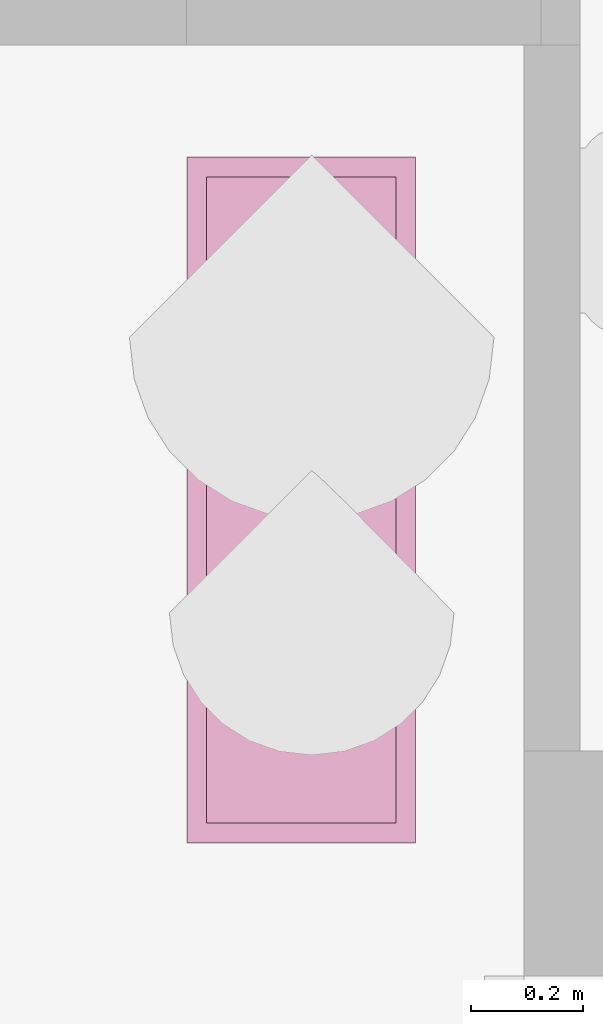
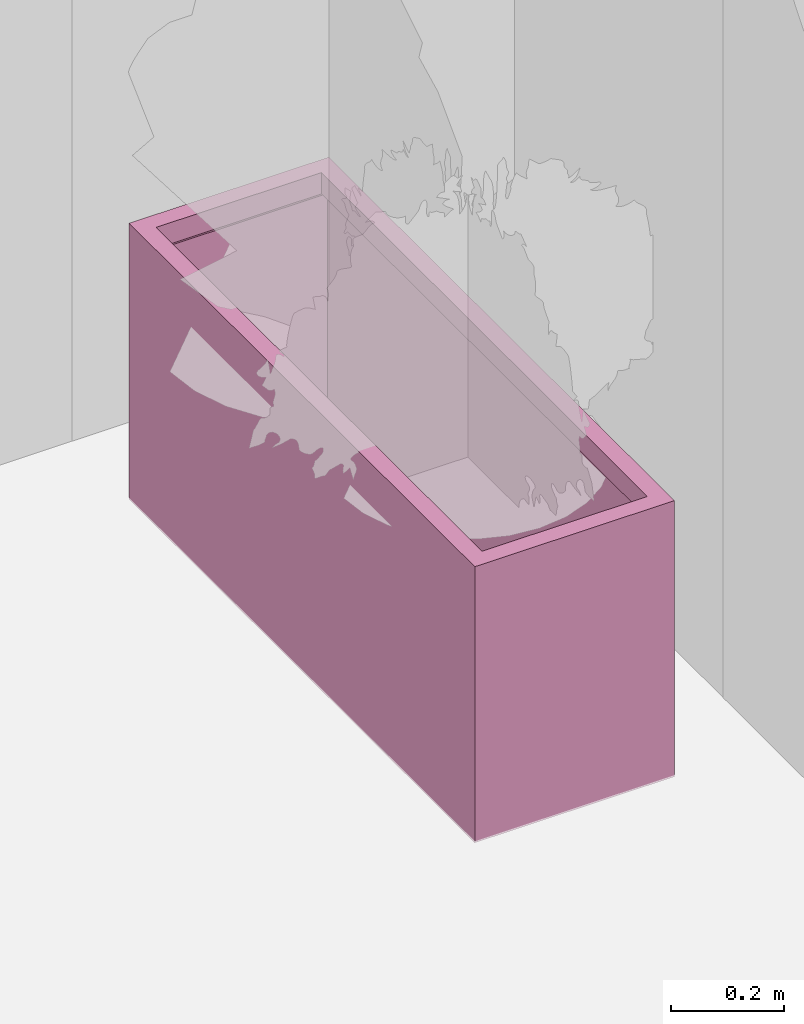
# One storey, part 30 of 32: 1 furnishing.
"""IFC2X3 building model written with IfcOpenShell, lengths in metres."""

from ifc_helpers import new_model, entity, si_unit, converted_unit, derived_unit, direction, frame, origin, origin_2d_with_axis, place, context, subcontext, project, spatial, polyline, rectangle, outline, extrude, faceted_brep, source, transform, mapped, material, type_object, type_shapes, element, save


model = new_model("IFC2X3")

# Units and contexts
model_context = context("Model", 3, precision=1e-05, world=origin(), true_north=direction((6.12303176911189e-17, 1.0)))
plan_context = context("Plan", 3, precision=1e-05, world=origin(), true_north=direction((6.12303176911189e-17, 1.0)))
body_context = subcontext(model_context, "Body", "Model", "MODEL_VIEW")
ifc_project = project(units=[si_unit("LENGTHUNIT", "METRE"), si_unit("AREAUNIT", "SQUARE_METRE"), si_unit("VOLUMEUNIT", "CUBIC_METRE"), converted_unit("PLANEANGLEUNIT", "DEGREE", entity("IfcRatioMeasure", 0.0174532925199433), si_unit("PLANEANGLEUNIT", "RADIAN"), dimensions=[0, 0, 0, 0, 0, 0, 0]), si_unit("MASSUNIT", "GRAM", prefix="KILO"), derived_unit("MASSDENSITYUNIT", [(si_unit("MASSUNIT", "GRAM", prefix="KILO"), 1), (si_unit("LENGTHUNIT", "METRE"), -3)]), derived_unit("MOMENTOFINERTIAUNIT", [(si_unit("LENGTHUNIT", "METRE"), 4)]), si_unit("TIMEUNIT", "SECOND"), si_unit("FREQUENCYUNIT", "HERTZ"), si_unit("THERMODYNAMICTEMPERATUREUNIT", "DEGREE_CELSIUS"), derived_unit("THERMALTRANSMITTANCEUNIT", [(si_unit("MASSUNIT", "GRAM", prefix="KILO"), 1), (si_unit("THERMODYNAMICTEMPERATUREUNIT", "KELVIN"), -1), (si_unit("TIMEUNIT", "SECOND"), -3)]), derived_unit("VOLUMETRICFLOWRATEUNIT", [(si_unit("LENGTHUNIT", "METRE"), 3), (si_unit("TIMEUNIT", "SECOND"), -1)]), si_unit("ELECTRICCURRENTUNIT", "AMPERE"), si_unit("ELECTRICVOLTAGEUNIT", "VOLT"), si_unit("POWERUNIT", "WATT"), si_unit("FORCEUNIT", "NEWTON", prefix="KILO"), si_unit("ILLUMINANCEUNIT", "LUX"), si_unit("LUMINOUSFLUXUNIT", "LUMEN"), si_unit("LUMINOUSINTENSITYUNIT", "CANDELA"), derived_unit("USERDEFINED", [(si_unit("MASSUNIT", "GRAM", prefix="KILO"), -1), (si_unit("LENGTHUNIT", "METRE"), -2), (si_unit("TIMEUNIT", "SECOND"), 3), (si_unit("LUMINOUSFLUXUNIT", "LUMEN"), 1)]), derived_unit("LINEARVELOCITYUNIT", [(si_unit("LENGTHUNIT", "METRE"), 1), (si_unit("TIMEUNIT", "SECOND"), -1)]), si_unit("PRESSUREUNIT", "PASCAL"), derived_unit("USERDEFINED", [(si_unit("LENGTHUNIT", "METRE"), -2), (si_unit("MASSUNIT", "GRAM", prefix="KILO"), 1), (si_unit("TIMEUNIT", "SECOND"), -2)]), derived_unit("LINEARFORCEUNIT", [(si_unit("MASSUNIT", "GRAM", prefix="KILO"), 1), (si_unit("LENGTHUNIT", "METRE"), 1), (si_unit("TIMEUNIT", "SECOND"), -2), (si_unit("LENGTHUNIT", "METRE"), -1)]), derived_unit("PLANARFORCEUNIT", [(si_unit("MASSUNIT", "GRAM", prefix="KILO"), 1), (si_unit("LENGTHUNIT", "METRE"), 1), (si_unit("TIMEUNIT", "SECOND"), -2), (si_unit("LENGTHUNIT", "METRE"), -2)])], contexts=[model_context, plan_context])

# Site, building, storey, space
site_placement = place(None, origin())
site = spatial("IfcSite", under=ifc_project, at=site_placement, Name="Default", CompositionType="ELEMENT")
building_placement = place(site_placement, origin())
building = spatial("IfcBuilding", under=site, at=building_placement, CompositionType="ELEMENT")
storey_placement = place(building_placement, origin())
storey = spatial("IfcBuildingStorey", under=building, at=storey_placement, Name="0 Mairie RDC 0.00", CompositionType="ELEMENT", Elevation=-1.94916083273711e-14)
space_placement = place(storey_placement, origin())
space = spatial("IfcSpace", under=storey, at=space_placement, Name="16", CompositionType="ELEMENT", InteriorOrExteriorSpace="INTERNAL")

# Furnishing
ifc_material = material(Name="Fiberglass - Pots Planters & More - Bright White")
furniture_type = type_object("IfcFurnitureType", Name="Mobilier : Furniture-Pots_Planters_and_More-Tolga_Modern_Planter_Boxes : 48\" L x 16\" W x 24\" H", material=ifc_material)
shared_shape = source(origin(), body_context, "Body", "SolidModel", [
    extrude(outline(polyline([(-0.036322, -0.0976206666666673), (0.042164, -0.0976206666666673), (0.042164, 0.147235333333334), (-0.00584199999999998, 0.147235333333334), (-0.00584199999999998, -0.049614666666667), (-0.036322, -0.049614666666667), (-0.036322, -0.0976206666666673)])), frame((-0.490389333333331, -0.139446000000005, 0.0), z_axis=(0.0, 0.0, 1.0), x_axis=(0.0, -1.0, 0.0)), (0.0, 0.0, 1.0), 0.01524),
    extrude(outline(polyline([(-0.0976206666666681, -0.036322), (-0.0496146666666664, -0.036322), (-0.0496146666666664, -0.005842), (0.147235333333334, -0.005842), (0.147235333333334, 0.042164), (-0.0976206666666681, 0.042164), (-0.0976206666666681, -0.036322)])), frame((0.49038933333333, -0.139446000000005, 0.0), z_axis=(0.0, 0.0, 1.0), x_axis=(-1.0, 0.0, 0.0)), (0.0, 0.0, 1.0), 0.01524),
    extrude(outline(polyline([(-0.0976206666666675, -0.036322), (-0.0496146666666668, -0.036322), (-0.0496146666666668, -0.005842), (0.147235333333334, -0.005842), (0.147235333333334, 0.042164), (-0.0976206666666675, 0.042164), (-0.0976206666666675, -0.036322)])), frame((-0.490389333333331, 0.139446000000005, 0.0)), (0.0, 0.0, 1.0), 0.01524),
    extrude(rectangle(XDim=0.196850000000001, YDim=0.07874, at=origin_2d_with_axis()), frame((0.0, 0.0, 0.0), z_axis=(0.0, 0.0, 1.0), x_axis=(-1.0, 0.0, 0.0)), (0.0, 0.0, 1.0), 0.01524),
    extrude(outline(polyline([(-0.036322, -0.0976206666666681), (0.042164, -0.0976206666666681), (0.042164, 0.147235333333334), (-0.00584199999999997, 0.147235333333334), (-0.00584199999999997, -0.0496146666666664), (-0.036322, -0.0496146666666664), (-0.036322, -0.0976206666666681)])), frame((0.49038933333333, 0.139446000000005, 0.0), z_axis=(0.0, 0.0, 1.0), x_axis=(0.0, 1.0, 0.0)), (0.0, 0.0, 1.0), 0.01524),
    faceted_brep([(0.604520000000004, 0.198120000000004, 0.0203200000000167), (-0.604520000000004, 0.198120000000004, 0.0203200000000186), (-0.604520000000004, -0.198120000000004, 0.0203200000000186), (0.604520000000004, -0.198120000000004, 0.0203200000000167), (0.609600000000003, 0.203200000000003, 0.0152400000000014), (0.609600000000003, -0.203200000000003, 0.0152400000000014), (-0.609600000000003, -0.203200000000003, 0.0152400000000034), (-0.609600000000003, 0.203200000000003, 0.0152400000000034)], [[[0, 1, 2, 3]], [[4, 5, 6, 7]], [[4, 7, 1, 0]], [[7, 6, 2, 1]], [[6, 5, 3, 2]], [[5, 4, 0, 3]]]),
    faceted_brep([(0.574675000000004, 0.168275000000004, 0.609600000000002), (0.574675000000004, 0.168275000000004, 0.563880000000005), (0.574675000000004, -0.168275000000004, 0.563880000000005), (0.574675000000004, -0.168275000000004, 0.609600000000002), (0.609600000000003, 0.203200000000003, 0.0152400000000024), (0.609600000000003, 0.203200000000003, 0.609600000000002), (0.609600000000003, -0.203200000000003, 0.609600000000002), (0.609600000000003, -0.203200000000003, 0.0152400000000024), (0.604520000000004, 0.198120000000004, 0.0203200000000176), (0.604520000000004, -0.198120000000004, 0.0203200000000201), (0.604520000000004, 0.198120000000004, 0.536448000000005), (0.604520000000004, -0.198120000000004, 0.536448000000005), (-0.574675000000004, -0.168275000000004, 0.563880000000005), (-0.574675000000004, -0.168275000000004, 0.609600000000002), (-0.609600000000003, -0.203200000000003, 0.609600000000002), (-0.609600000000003, -0.203200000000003, 0.0152400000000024), (-0.604520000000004, -0.198120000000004, 0.0203200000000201), (-0.604520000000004, -0.198120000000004, 0.536448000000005), (-0.574675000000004, 0.168275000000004, 0.563880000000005), (-0.574675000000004, 0.168275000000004, 0.609600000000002), (-0.609600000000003, 0.203200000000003, 0.609600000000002), (-0.609600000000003, 0.203200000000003, 0.0152400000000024), (-0.604520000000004, 0.198120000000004, 0.0203200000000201), (-0.604520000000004, 0.198120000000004, 0.536448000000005)], [[[0, 1, 2, 3]], [[4, 5, 6, 7]], [[8, 4, 7, 9]], [[10, 8, 9, 11]], [[1, 10, 11, 2]], [[3, 2, 12, 13]], [[7, 6, 14, 15]], [[9, 7, 15, 16]], [[11, 9, 16, 17]], [[2, 11, 17, 12]], [[13, 12, 18, 19]], [[15, 14, 20, 21]], [[16, 15, 21, 22]], [[17, 16, 22, 23]], [[12, 17, 23, 18]], [[19, 18, 1, 0]], [[3, 13, 19, 0], [5, 20, 14, 6]], [[21, 20, 5, 4]], [[22, 21, 4, 8]], [[23, 22, 8, 10]], [[18, 23, 10, 1]]], outer=[[True], [True], [True], [True], [True], [True], [True], [True], [True], [True], [True], [True], [True], [True], [True], [True], [False, True], [True], [True], [True], [True]]),
])
type_shapes(furniture_type, [shared_shape])
furnishing_placement = place(space_placement, frame((-5.3234967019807, -5.78721541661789, -0.0199999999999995), z_axis=(0.0, 0.0, 1.0), x_axis=(0.0, 1.0, 0.0)))
element("IfcFurnishingElement", 1, at=furnishing_placement, inside=space, type_object=furniture_type, material=ifc_material, Name="Mobilier : Furniture-Pots_Planters_and_More-Tolga_Modern_Planter_Boxes : 48\" L x 16\" W x 24\" H", ObjectType="Furniture-Pots_Planters_and_More-Tolga_Modern_Planter_Boxes:48\" L x 16\" W x 24\" H", context=body_context, shape_type="MappedRepresentation", body=[
    mapped(shared_shape, transform((0.0, 0.0, 0.0), scale=1.0)),
])

save(model, "model.ifc")
